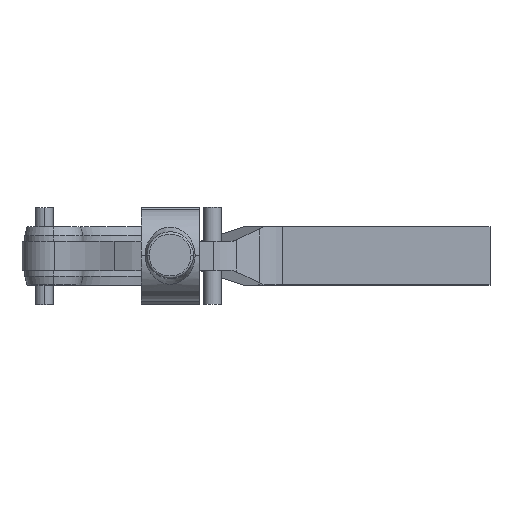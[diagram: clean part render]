
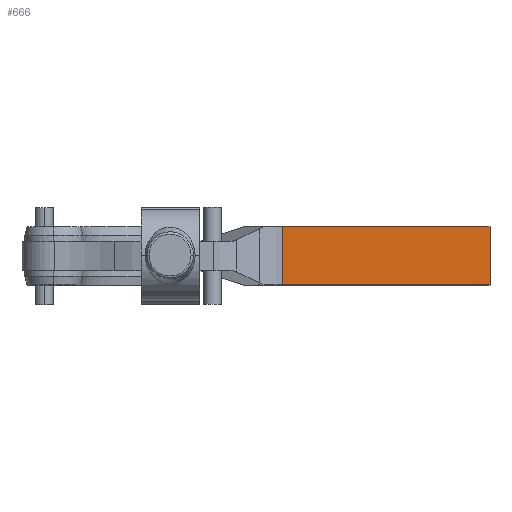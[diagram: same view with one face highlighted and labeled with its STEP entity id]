
A CAD part, top view. The second image highlights one B-rep face of the part: STEP entity #666.
In plain terms, the highlighted planar face has unit normal (0, 0, 1).
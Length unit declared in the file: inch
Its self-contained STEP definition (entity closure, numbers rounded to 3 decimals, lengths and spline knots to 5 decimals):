
#666 = ADVANCED_FACE( '', ( #919 ), #920, .T. );
#919 = FACE_OUTER_BOUND( '', #1309, .T. );
#920 = PLANE( '', #1310 );
#1309 = EDGE_LOOP( '', ( #2119, #2120, #2121, #2122 ) );
#1310 = AXIS2_PLACEMENT_3D( '', #2123, #2124, #2125 );
#2119 = ORIENTED_EDGE( '', *, *, #3253, .T. );
#2120 = ORIENTED_EDGE( '', *, *, #3257, .T. );
#2121 = ORIENTED_EDGE( '', *, *, #3239, .F. );
#2122 = ORIENTED_EDGE( '', *, *, #3256, .T. );
#2123 = CARTESIAN_POINT( '', ( 6., 0.375, 2.49919 ) );
#2124 = DIRECTION( '', ( 0., 0., 1. ) );
#2125 = DIRECTION( '', ( 1., 0., 0. ) );
#3239 = EDGE_CURVE( '', #3843, #3845, #3846, .T. );
#3253 = EDGE_CURVE( '', #3870, #3868, #3871, .T. );
#3256 = EDGE_CURVE( '', #3843, #3870, #3874, .T. );
#3257 = EDGE_CURVE( '', #3868, #3845, #3875, .T. );
#3843 = VERTEX_POINT( '', #4821 );
#3845 = VERTEX_POINT( '', #4823 );
#3846 = LINE( '', #4824, #4825 );
#3868 = VERTEX_POINT( '', #4857 );
#3870 = VERTEX_POINT( '', #4860 );
#3871 = LINE( '', #4861, #4862 );
#3874 = LINE( '', #4866, #4867 );
#3875 = LINE( '', #4868, #4869 );
#4821 = CARTESIAN_POINT( '', ( 3.32196, 0.375, 2.49919 ) );
#4823 = CARTESIAN_POINT( '', ( 6., 0.375, 2.49919 ) );
#4824 = CARTESIAN_POINT( '', ( 3.32196, 0.375, 2.49919 ) );
#4825 = VECTOR( '', #5768, 1. );
#4857 = CARTESIAN_POINT( '', ( 6., -0.375, 2.49919 ) );
#4860 = CARTESIAN_POINT( '', ( 3.32196, -0.375, 2.49919 ) );
#4861 = CARTESIAN_POINT( '', ( 3.32196, -0.375, 2.49919 ) );
#4862 = VECTOR( '', #5789, 1. );
#4866 = CARTESIAN_POINT( '', ( 3.32196, 0.375, 2.49919 ) );
#4867 = VECTOR( '', #5794, 1. );
#4868 = CARTESIAN_POINT( '', ( 6., -0.375, 2.49919 ) );
#4869 = VECTOR( '', #5795, 1. );
#5768 = DIRECTION( '', ( 1., 0., 0. ) );
#5789 = DIRECTION( '', ( 1., 0., 0. ) );
#5794 = DIRECTION( '', ( 0., -1., 0. ) );
#5795 = DIRECTION( '', ( 0., 1., 0. ) );
